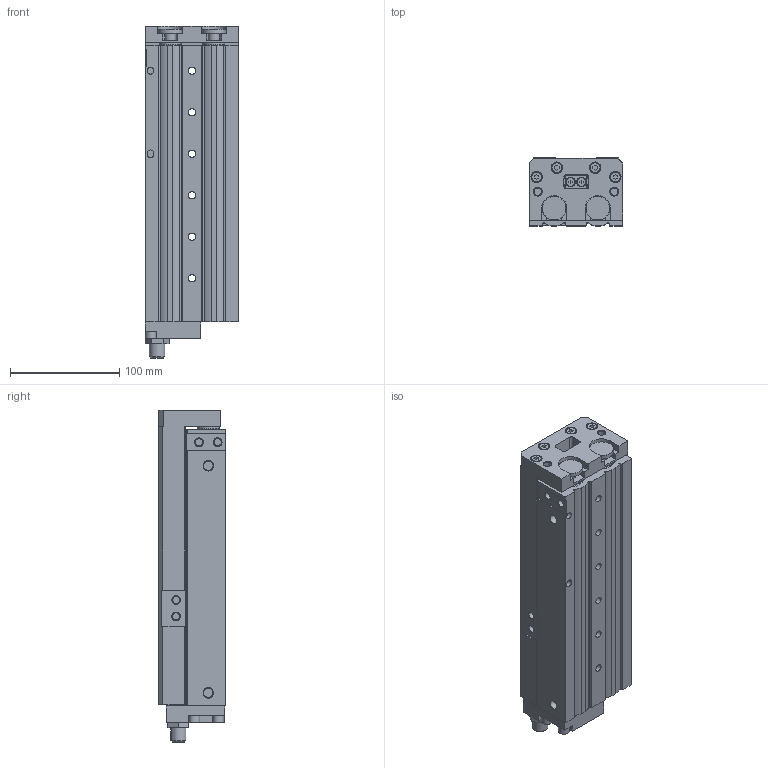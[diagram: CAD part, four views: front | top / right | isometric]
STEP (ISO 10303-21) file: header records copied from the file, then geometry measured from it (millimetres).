
FILE_DESCRIPTION( ( 'STEP AP214' ), '1' );
FILE_NAME( 'C:/Users/EMC02301/Desktop/ELS图纸/ELS25X125-S-AF.stp', '2026-08-05T06:26:42', ( 'License CC BY-ND 4.0' ), ( 'CADENAS' ), ' ', 'PARTsolutions', ' ' );
FILE_SCHEMA( ( 'AUTOMOTIVE_DESIGN { 1 0 10303 214 1 1 1 1 }' ) );
Length unit declared in the file: millimetre
Products named in the file (4): ELS25X125-S-AF(0)(); _ELS25X125-S-AF(HX-07)(HX-07-1)(0-body); _ELS25X125-S-AF(0-rod); _FJ-ELS25-(AF)
Assembly tree (3 placements, depth 2):
  ELS25X125-S-AF(0)()
    _ELS25X125-S-AF(HX-07)(HX-07-1)(0-body)
    _ELS25X125-S-AF(0-rod)
    _FJ-ELS25-(AF)
Bounding box: 86 x 62 x 304 mm (x, y, z)
Volume: 1231713.4 mm3; surface area: 267949.6 mm2
Topology: 3 solids, 3 shells, 561 faces, 1369 edges, 906 vertices
Faces by surface type: plane 394, cylinder 134, cone 33
Full cylindrical faces by diameter (mm): 4.917 x14, 6 x2, 6.647 x12, 6.8 x6, 8 x8, 8.566 x2, 9 x12, 10 x12, 10.5 x5, 12 x11, 14 x1, 20 x2, 22 x2, 23 x2, 25 x4, 26 x2
Entity records: 20153 total; most frequent: CARTESIAN_POINT 2660, DIRECTION 2647, ORIENTED_EDGE 2428, EDGE_CURVE 1214, LINE 911, VECTOR 911, VERTEX_POINT 881, AXIS2_PLACEMENT_3D 868
